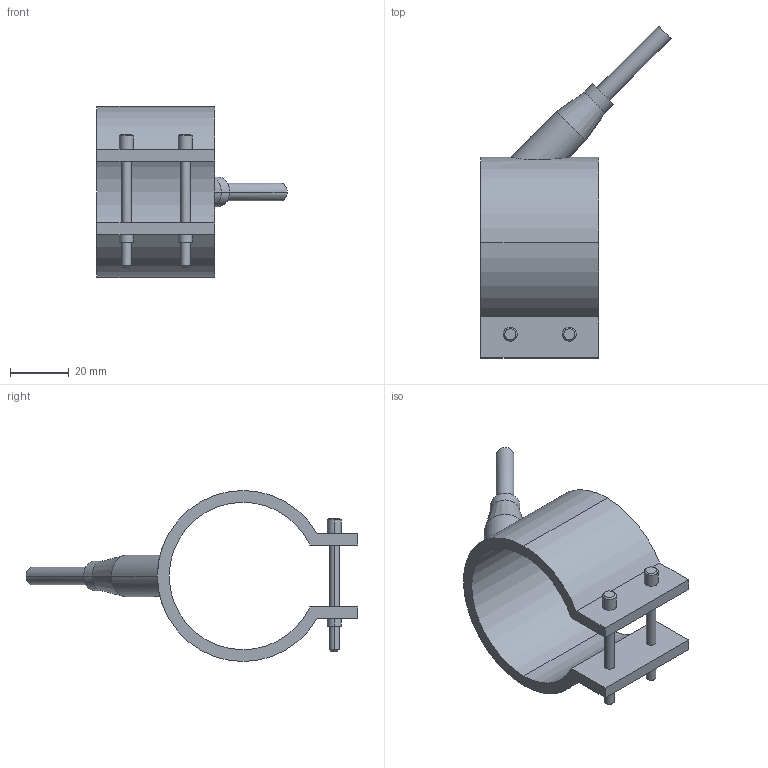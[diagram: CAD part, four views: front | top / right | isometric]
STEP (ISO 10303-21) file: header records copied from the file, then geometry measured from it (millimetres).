
FILE_DESCRIPTION(('CATIA V5 STEP Exchange'),'2;1');
FILE_NAME('C:\Users\Utente\Desktop\IO LAVORO\3D X SITO CF\X SITO\PLASTICA\RF1\29050040.stp','2021-03-27T09:29:52+00:00',('none'),('none'),'CATIA Version 5 Release 20 GA (IN-10)','CATIA V5 STEP AP203','none');
FILE_SCHEMA(('CONFIG_CONTROL_DESIGN'));
Length unit declared in the file: millimetre
Products named in the file (1): 29050040
Bounding box: 64.55 x 112.55 x 58 mm (x, y, z)
Volume: 33387.7 mm3; surface area: 18071.9 mm2
Topology: 1 solids, 1 shells, 54 faces, 124 edges, 80 vertices
Faces by surface type: cylinder 28, plane 16, cone 10
Entity records: 1714 total; most frequent: CARTESIAN_POINT 473, ORIENTED_EDGE 248, DIRECTION 215, EDGE_CURVE 124, AXIS2_PLACEMENT_3D 108, VERTEX_POINT 80, EDGE_LOOP 66, VECTOR 56
